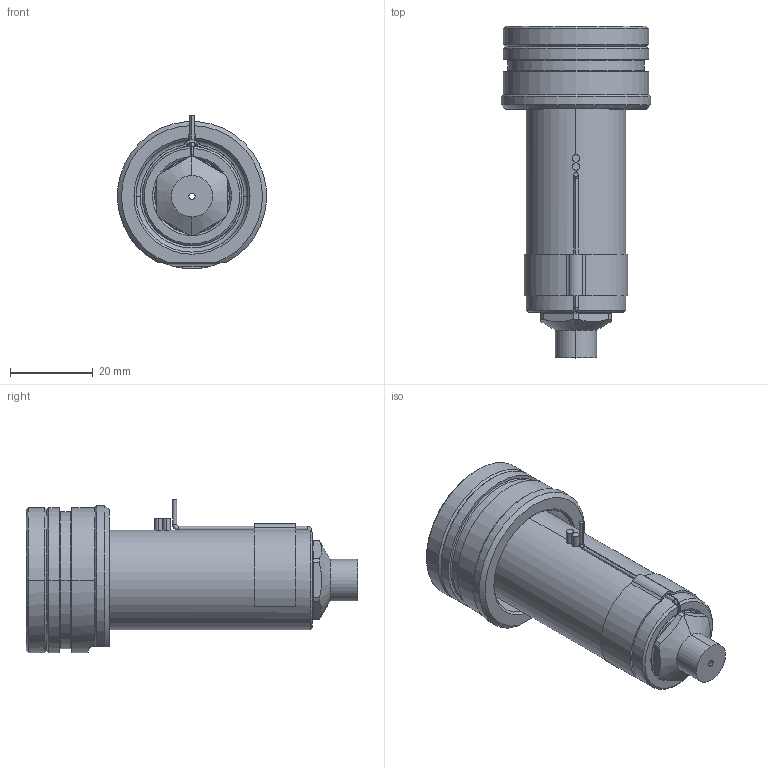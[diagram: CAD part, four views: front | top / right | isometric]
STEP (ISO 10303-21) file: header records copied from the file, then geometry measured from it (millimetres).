
FILE_DESCRIPTION((''),'2;1');
FILE_NAME('EO06_VG-FB_WR_060_SW','2024-02-19T13:25:44',('sundharh'),(''),'CREO PARAMETRIC BY PTC INC, 2023154','CREO PARAMETRIC BY PTC INC, 2023154','');
FILE_SCHEMA(('CONFIG_CONTROL_DESIGN'));
Length unit declared in the file: millimetre
Products named in the file (1): EO06_VG-FB_WR_060_SW
Bounding box: 35.93 x 80 x 37 mm (x, y, z)
Volume: 38917.2 mm3; surface area: 12979.9 mm2
Topology: 2 solids, 2 shells, 203 faces, 502 edges, 301 vertices
Faces by surface type: cylinder 76, plane 42, cone 38, torus 29, bspline 16, sphere 2
Entity records: 6884 total; most frequent: CARTESIAN_POINT 2005, DIRECTION 1092, ORIENTED_EDGE 992, EDGE_CURVE 496, AXIS2_PLACEMENT_3D 462, VERTEX_POINT 301, CIRCLE 275, EDGE_LOOP 217
